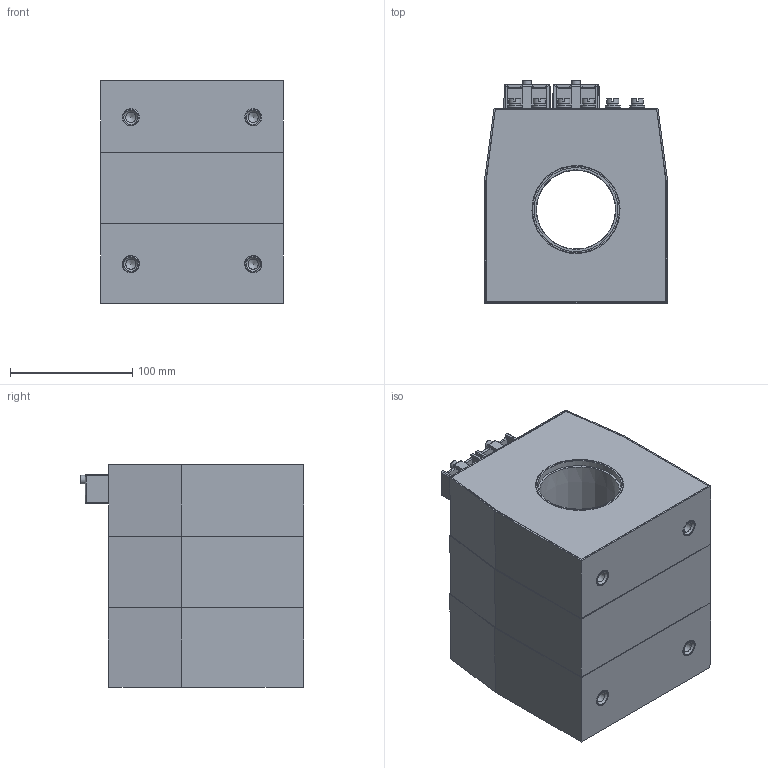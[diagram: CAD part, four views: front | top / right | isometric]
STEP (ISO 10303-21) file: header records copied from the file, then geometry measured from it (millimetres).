
FILE_DESCRIPTION(('STEP AP203'), '1');
FILE_NAME('ÒØÏ-ÍÒÇ-0,66-83À (65 ìì, 3-é ãàáàðèò)', '2025-08-27T09:46:11', ('UNSPECIFIED'), ('UNSPECIFIED'), 'ASCON STEP Converter 1.3', 'ASCON Math Kernel', '');
FILE_SCHEMA(('CONFIG_CONTROL_DESIGN'));
Length unit declared in the file: millimetre
Assembly tree (41 placements, depth 2):
  (unnamed)
    (unnamed)
    (unnamed)
    (unnamed)
    (unnamed)  x3
    (unnamed)  x4
    (unnamed)  x2
    (unnamed)  x6
    (unnamed)  x2
    (unnamed)  x6
    (unnamed)  x6
    (unnamed)  x6
    (unnamed)  x2
    (unnamed)
Bounding box: 150 x 182.93 x 182 mm (x, y, z)
Volume: 661253.5 mm3; surface area: 438893.1 mm2
Topology: 41 solids, 41 shells, 642 faces, 1427 edges, 889 vertices
Faces by surface type: plane 339, cylinder 186, cone 81, torus 20, bspline 16
Full cylindrical faces by diameter (mm): 3.244 x2, 3.95 x2, 4 x6, 4.5 x2, 4.8 x6, 4.92 x6, 6 x14, 6.4 x6, 7 x2, 7.1 x4, 8 x2, 8.376 x4, 10 x12, 10.1 x6, 12 x12, 14 x8, 17 x4, 65 x1, 65.05 x1, 68.599 x6, 68.6 x1, 71 x1
Entity records: 14116 total; most frequent: CARTESIAN_POINT 2810, DIRECTION 1570, ORIENTED_EDGE 1390, EDGE_CURVE 695, AXIS2_PLACEMENT_3D 566, VERTEX_POINT 488, EDGE_LOOP 461, LINE 438
